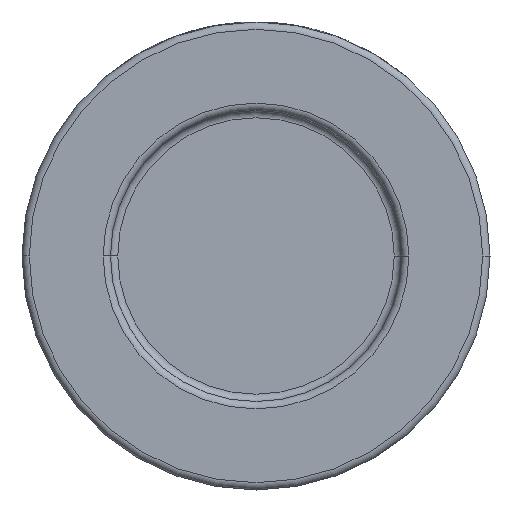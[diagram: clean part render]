
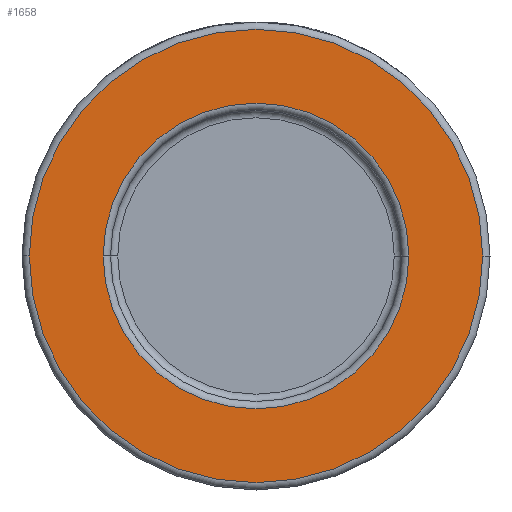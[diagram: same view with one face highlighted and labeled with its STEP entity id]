
A CAD part, front view. The second image highlights one B-rep face of the part: STEP entity #1658.
In plain terms, the highlighted planar face has unit normal (0, -1, 0).
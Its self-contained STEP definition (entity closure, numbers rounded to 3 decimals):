
#149 = EDGE_CURVE ( 'NONE', #1019, #3972, #3456, .T. ) ;
#184 = EDGE_CURVE ( 'NONE', #4313, #1061, #3615, .T. ) ;
#255 = EDGE_LOOP ( 'NONE', ( #2784, #3958 ) ) ;
#411 = EDGE_CURVE ( 'NONE', #1061, #4313, #2477, .T. ) ;
#486 = AXIS2_PLACEMENT_3D ( 'NONE', #2513, #4255, #2489 ) ;
#631 = CARTESIAN_POINT ( 'NONE',  ( 31., -22., 0. ) ) ;
#755 = DIRECTION ( 'NONE',  ( 1., 0., 0. ) ) ;
#851 = DIRECTION ( 'NONE',  ( 1., 0., 0. ) ) ;
#872 = DIRECTION ( 'NONE',  ( 0., 1., 0. ) ) ;
#891 = CARTESIAN_POINT ( 'NONE',  ( 32., -22., 0. ) ) ;
#1019 = VERTEX_POINT ( 'NONE', #3377 ) ;
#1027 = AXIS2_PLACEMENT_3D ( 'NONE', #891, #1235, #851 ) ;
#1061 = VERTEX_POINT ( 'NONE', #631 ) ;
#1152 = CARTESIAN_POINT ( 'NONE',  ( 0., -22., 0. ) ) ;
#1235 = DIRECTION ( 'NONE',  ( 0., -1., 0. ) ) ;
#1429 = DIRECTION ( 'NONE',  ( 0., 1., 0. ) ) ;
#1533 = DIRECTION ( 'NONE',  ( 0., -1., 0. ) ) ;
#1658 = ADVANCED_FACE ( 'NONE', ( #3480, #4056 ), #1717, .T. ) ;
#1717 = PLANE ( 'NONE',  #1027 ) ;
#1924 = DIRECTION ( 'NONE',  ( 1., 0., 0. ) ) ;
#2067 = CARTESIAN_POINT ( 'NONE',  ( -20.9, -22., 0. ) ) ;
#2109 = CARTESIAN_POINT ( 'NONE',  ( -31., -22., 0. ) ) ;
#2421 = AXIS2_PLACEMENT_3D ( 'NONE', #3188, #1429, #755 ) ;
#2477 = CIRCLE ( 'NONE', #486, 31. ) ;
#2489 = DIRECTION ( 'NONE',  ( 1., 0., 0. ) ) ;
#2513 = CARTESIAN_POINT ( 'NONE',  ( 0., -22., 0. ) ) ;
#2697 = EDGE_CURVE ( 'NONE', #3972, #1019, #3339, .T. ) ;
#2784 = ORIENTED_EDGE ( 'NONE', *, *, #411, .T. ) ;
#2785 = ORIENTED_EDGE ( 'NONE', *, *, #2697, .T. ) ;
#2929 = EDGE_LOOP ( 'NONE', ( #3427, #2785 ) ) ;
#3188 = CARTESIAN_POINT ( 'NONE',  ( 0., -22., 0. ) ) ;
#3339 = CIRCLE ( 'NONE', #3342, 20.9 ) ;
#3342 = AXIS2_PLACEMENT_3D ( 'NONE', #4418, #872, #1924 ) ;
#3377 = CARTESIAN_POINT ( 'NONE',  ( 20.9, -22., 0. ) ) ;
#3427 = ORIENTED_EDGE ( 'NONE', *, *, #149, .T. ) ;
#3456 = CIRCLE ( 'NONE', #2421, 20.9 ) ;
#3480 = FACE_BOUND ( 'NONE', #2929, .T. ) ;
#3615 = CIRCLE ( 'NONE', #4202, 31. ) ;
#3958 = ORIENTED_EDGE ( 'NONE', *, *, #184, .T. ) ;
#3972 = VERTEX_POINT ( 'NONE', #2067 ) ;
#4056 = FACE_OUTER_BOUND ( 'NONE', #255, .T. ) ;
#4202 = AXIS2_PLACEMENT_3D ( 'NONE', #1152, #1533, #4396 ) ;
#4255 = DIRECTION ( 'NONE',  ( 0., -1., 0. ) ) ;
#4313 = VERTEX_POINT ( 'NONE', #2109 ) ;
#4396 = DIRECTION ( 'NONE',  ( 1., 0., 0. ) ) ;
#4418 = CARTESIAN_POINT ( 'NONE',  ( 0., -22., 0. ) ) ;
